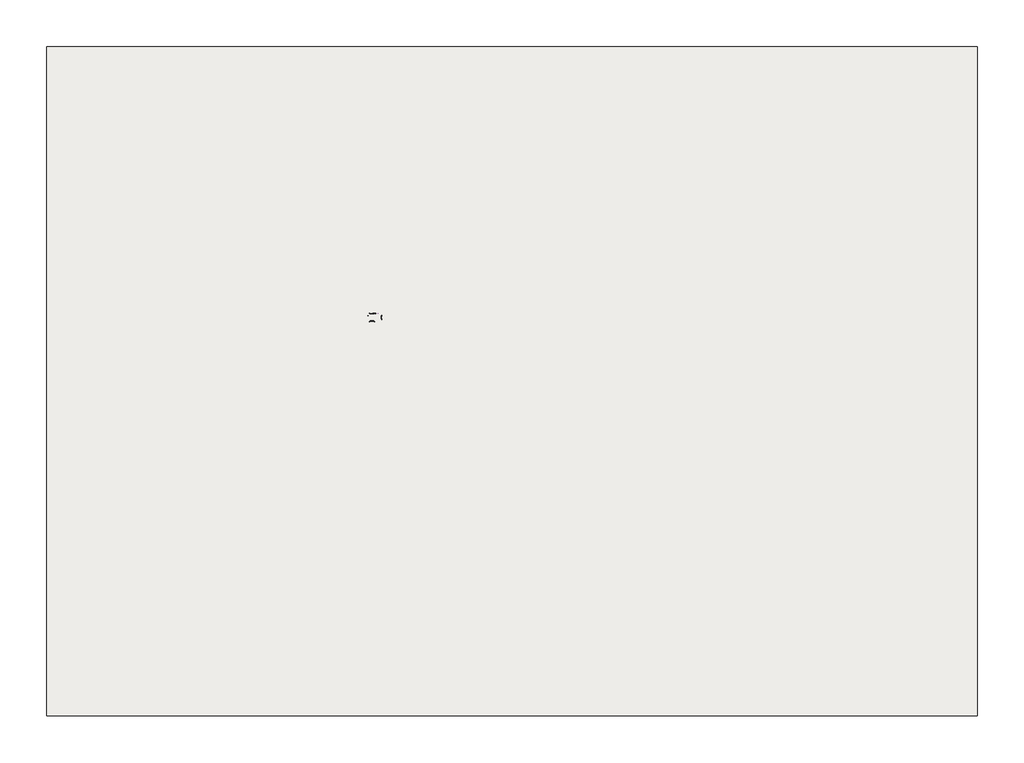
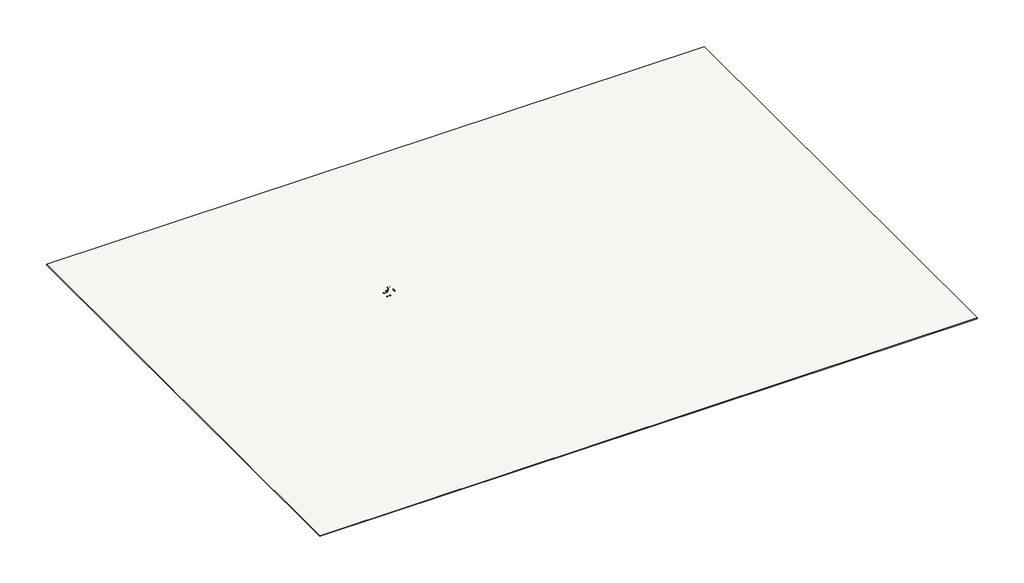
# One storey, incomplete: 7 proxies, 1 slab.
"""IFC4 building model written with IfcOpenShell, lengths in millimetres."""

from ifc_helpers import new_model, si_unit, frame, origin, place, context, project, spatial, polyline, outline, extrude, transform, mapped, element, save
from components import default_9fe8953b, default_0786900b, default_29ba2d10, tsl_45_cs_satin_2506d694, tsl_721_cs_satin_24e3fac1, tsl_974_cs_satin_c553be42

model = new_model("IFC4")

# Units and contexts
model_context = context("Model", 3, world=origin())
ifc_project = project(units=[si_unit("LENGTHUNIT", "METRE", prefix="MILLI")], contexts=[model_context])

# Site, building, storey
site = spatial("IfcSite", under=ifc_project)
building = spatial("IfcBuilding", under=site)
storey = spatial("IfcBuildingStorey", under=building, Name="TSL LAYOUTS", Elevation=3657.6)

# Proxies
placement = place(None, origin())
default_shape = default_9fe8953b(model_context)
element("IfcBuildingElementProxy", 1, Name="TSL_UK - TSLGR45 - Radius ADA Grab Bars - Nest - Shared : Default", ObjectType="TSL_UK - TSLGR45 - Radius ADA Grab Bars - Nest - Shared : Default", at=placement, inside=storey, context=model_context, shape_type="MappedRepresentation", body=[
    mapped(default_shape, transform((-4172.4046077, 6731.6677095, 4320.21), x_axis=(1.0, 0.0, 0.0), y_axis=(0.0, 1.0, 0.0), z_axis=(0.0, 0.0, 1.0))),
])
element("IfcBuildingElementProxy", 2, Name="TSL_UK - TSLGR45 - Radius ADA Grab Bars - Nest - Shared : Default", ObjectType="TSL_UK - TSLGR45 - Radius ADA Grab Bars - Nest - Shared : Default", at=placement, inside=storey, context=model_context, shape_type="MappedRepresentation", body=[
    mapped(default_shape, transform((-3780.1046077, 6731.6677095, 4757.1), x_axis=(0.0, 0.0, 1.0), y_axis=(0.0, 1.0, 0.0), z_axis=(-1.0, 0.0, 0.0))),
])
default_2_shape = default_0786900b(model_context)
element("IfcBuildingElementProxy", 3, Name="TSL_UK - TSLGR45 - Radius ADA Grab Bars - Nest - Shared : Default", ObjectType="TSL_UK - TSLGR45 - Radius ADA Grab Bars - Nest - Shared : Default", at=placement, inside=storey, context=model_context, shape_type="MappedRepresentation", body=[
    mapped(default_2_shape, transform((-4172.4046077, 5731.6677095, 4320.21), x_axis=(1.0, 0.0, 0.0), y_axis=(0.0, 1.0, 0.0), z_axis=(0.0, 0.0, 1.0))),
])
default_3_shape = default_29ba2d10(model_context)
element("IfcBuildingElementProxy", 4, Name="TSL_UK - TSLGR45 - Radius ADA Grab Bars - Nest - Shared : Default", ObjectType="TSL_UK - TSLGR45 - Radius ADA Grab Bars - Nest - Shared : Default", at=placement, inside=storey, context=model_context, shape_type="MappedRepresentation", body=[
    mapped(default_3_shape, transform((-3013.1046077, 6231.6677095, 4657.6), x_axis=(0.0, -1.0, 0.0), y_axis=(1.0, 0.0, 0.0), z_axis=(0.0, 0.0, 1.0))),
])
tsl_45_cs_satin_shape = tsl_45_cs_satin_2506d694(model_context)
element("IfcBuildingElementProxy", 5, Name="TSL_UK - TSL45 - Single Toilet Roll Holder : TSL.45.CS - Satin", ObjectType="TSL_UK - TSL45 - Single Toilet Roll Holder : TSL.45.CS - Satin", at=placement, inside=storey, context=model_context, shape_type="MappedRepresentation", body=[
    mapped(tsl_45_cs_satin_shape, transform((-4022.2046077, 6731.6677095, 3657.6), x_axis=(1.0, 0.0, 0.0), y_axis=(0.0, 1.0, 0.0), z_axis=(0.0, 0.0, 1.0))),
])
tsl_721_cs_satin_shape = tsl_721_cs_satin_24e3fac1(model_context)
element("IfcBuildingElementProxy", 6, Name="TSL_UK - TSL721 - WC Flush Valve : TSL.721.CS - Satin", ObjectType="TSL_UK - TSL721 - WC Flush Valve : TSL.721.CS - Satin", at=placement, inside=storey, context=model_context, shape_type="MappedRepresentation", body=[
    mapped(tsl_721_cs_satin_shape, transform((-4614.7046077, 6431.6677095, 3657.6), x_axis=(0.0, 1.0, 0.0), y_axis=(-1.0, 0.0, 0.0), z_axis=(0.0, 0.0, 1.0))),
])
tsl_974_cs_satin_shape = tsl_974_cs_satin_c553be42(model_context)
element("IfcBuildingElementProxy", 7, Name="TSL_UK - TSL974 - Coat Hook : TSL.974.CS - Satin", ObjectType="TSL_UK - TSL974 - Coat Hook : TSL.974.CS - Satin", at=placement, inside=storey, context=model_context, shape_type="MappedRepresentation", body=[
    mapped(tsl_974_cs_satin_shape, transform((-3441.8946077, 6731.6677095, 3657.6), x_axis=(1.0, 0.0, 0.0), y_axis=(0.0, 1.0, 0.0), z_axis=(0.0, 0.0, 1.0))),
])

# Slab
element("IfcSlab", 8, ObjectType="3\" LW Concrete on 2\" Metal Deck", at=placement, inside=storey, context=model_context, shape_type="SweptSolid", body=[
    extrude(outline(polyline([(66399.7945952, 37809.4952069), (66399.7945952, -40219.3047931), (-42109.0054048, -40219.3047931), (-42109.0054048, 37809.4952069), (66399.7945952, 37809.4952069)])), frame((0.0, 0.0, 3530.6), z_axis=(0.0, 0.0, 1.0), x_axis=(1.0, 0.0, 0.0)), (0.0, 0.0, 1.0), 127.0),
])

save(model, "model.ifc")
